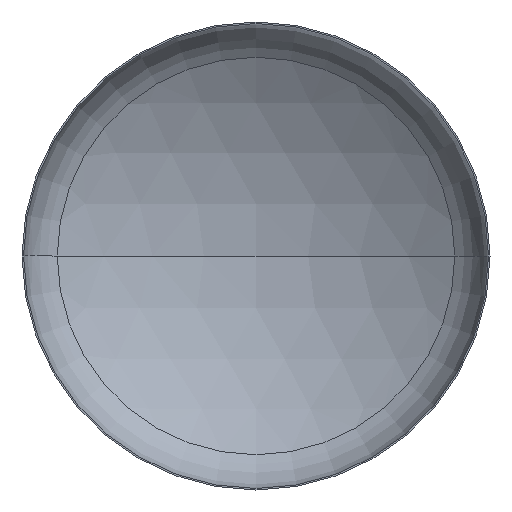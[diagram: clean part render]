
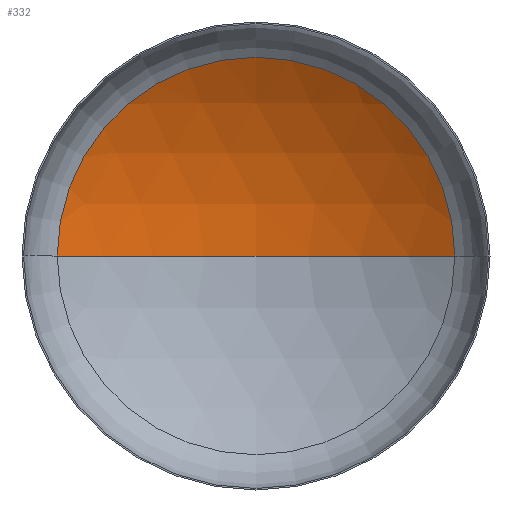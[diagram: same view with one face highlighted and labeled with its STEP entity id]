
A CAD part, front view. The second image highlights one B-rep face of the part: STEP entity #332.
In plain terms, the highlighted spherical face has radius 3200 mm.
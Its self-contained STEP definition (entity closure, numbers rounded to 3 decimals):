
#11 = AXIS2_PLACEMENT_3D ( 'NONE', #63, #295, #116 ) ;
#36 = EDGE_CURVE ( 'NONE', #130, #164, #253, .T. ) ;
#38 = EDGE_CURVE ( 'NONE', #167, #130, #195, .T. ) ;
#41 = EDGE_CURVE ( 'NONE', #167, #164, #246, .T. ) ;
#43 = EDGE_LOOP ( 'NONE', ( #160, #65, #139 ) ) ;
#63 = CARTESIAN_POINT ( 'NONE',  ( 0., -2150.854, 0. ) ) ;
#65 = ORIENTED_EDGE ( 'NONE', *, *, #38, .T. ) ;
#85 = CARTESIAN_POINT ( 'NONE',  ( 0., -2150.854, 0. ) ) ;
#86 = DIRECTION ( 'NONE',  ( 0., 0., -1. ) ) ;
#90 = DIRECTION ( 'NONE',  ( -1., 0., 0. ) ) ;
#102 = CARTESIAN_POINT ( 'NONE',  ( 1698.414, 561.228, 0. ) ) ;
#111 = SPHERICAL_SURFACE ( 'NONE', #365, 3200. ) ;
#116 = DIRECTION ( 'NONE',  ( 1., 0., 0. ) ) ;
#130 = VERTEX_POINT ( 'NONE', #102 ) ;
#134 = DIRECTION ( 'NONE',  ( 1., 0., 0. ) ) ;
#136 = CARTESIAN_POINT ( 'NONE',  ( 0., 1049.146, 0. ) ) ;
#139 = ORIENTED_EDGE ( 'NONE', *, *, #36, .T. ) ;
#149 = CARTESIAN_POINT ( 'NONE',  ( 0., 561.228, 0. ) ) ;
#150 = DIRECTION ( 'NONE',  ( 0., -1., 0. ) ) ;
#160 = ORIENTED_EDGE ( 'NONE', *, *, #41, .F. ) ;
#164 = VERTEX_POINT ( 'NONE', #232 ) ;
#167 = VERTEX_POINT ( 'NONE', #136 ) ;
#195 = CIRCLE ( 'NONE', #276, 3200. ) ;
#200 = AXIS2_PLACEMENT_3D ( 'NONE', #149, #150, #134 ) ;
#221 = FACE_OUTER_BOUND ( 'NONE', #43, .T. ) ;
#225 = CARTESIAN_POINT ( 'NONE',  ( 0., -2150.854, 0. ) ) ;
#232 = CARTESIAN_POINT ( 'NONE',  ( -1698.414, 561.228, 0. ) ) ;
#246 = CIRCLE ( 'NONE', #11, 3200. ) ;
#253 = CIRCLE ( 'NONE', #200, 1698.414 ) ;
#276 = AXIS2_PLACEMENT_3D ( 'NONE', #85, #86, #90 ) ;
#295 = DIRECTION ( 'NONE',  ( 0., 0., 1. ) ) ;
#299 = DIRECTION ( 'NONE',  ( -1., 0., 0. ) ) ;
#332 = ADVANCED_FACE ( 'NONE', ( #221 ), #111, .F. ) ;
#345 = DIRECTION ( 'NONE',  ( 0., 0., -1. ) ) ;
#365 = AXIS2_PLACEMENT_3D ( 'NONE', #225, #345, #299 ) ;
